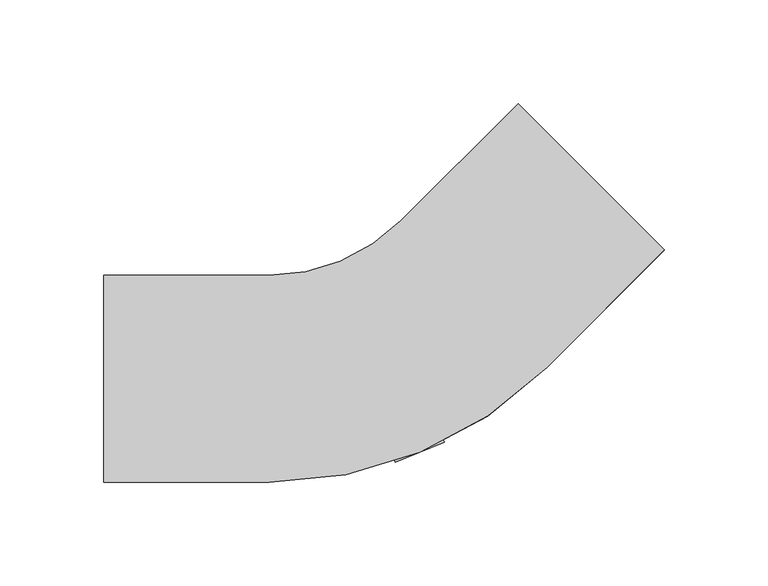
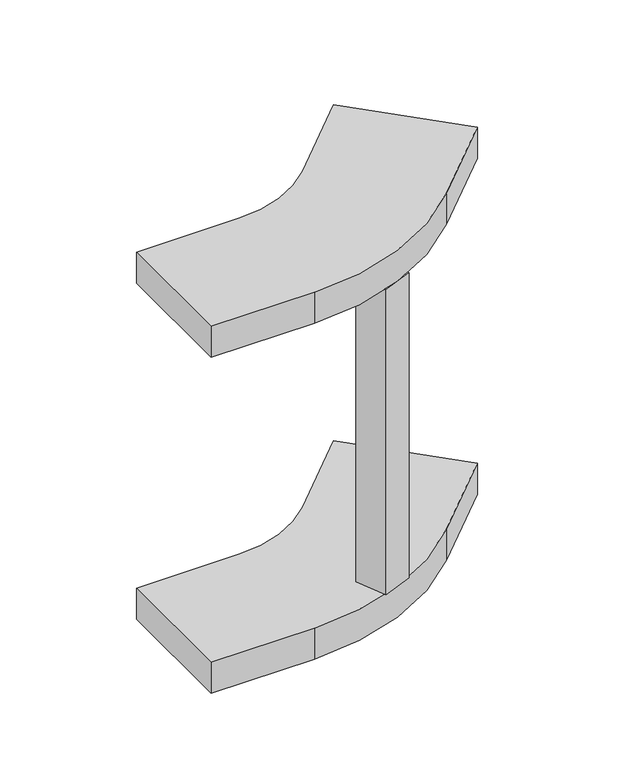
"""IFC4 building model written with IfcOpenShell, lengths in millimetres: cable carrier fitting geometry, Common_はしご垂直内側曲げ : 03 強電_低圧."""

from ifc_helpers import new_model, si_unit, point, frame, frame_2d, origin, place, context, project, spatial, polyline, circle_curve, trimmed, segment, composite_curve, outline, extrude, source, transform, mapped, element, save


def cable_carrier_fitting_edf0bd9d(model_context):
    return source(origin(), model_context, "Body", "SweptSolid", [
        extrude(outline(polyline([(16.7330643, -7.2104915), (26.4532235, -30.6770316), (2.9866834, -40.3971908), (-6.7334758, -16.9306506), (16.7330643, -7.2104915)])), frame((0.0, 0.0, -124.6), z_axis=(0.0, 0.0, 1.0), x_axis=(1.0, 0.0, 0.0)), (0.0, 0.0, 1.0), 249.2),
        extrude(outline(composite_curve([segment(polyline([(-137.9898987, -50.0), (-137.9898987, 50.0), (-57.9898987, 50.0)]), True, "CONTINUOUS"), segment(trimmed(circle_curve(frame_2d((-57.9898987, 140.0)), 90.0), [point((-57.9898987, 50.0))], [point((5.6497116, 76.3603897))], True, "CARTESIAN"), True, "CONTINUOUS"), segment(polyline([(5.6497116, 76.3603897), (62.2182541, 132.9289322), (132.9289322, 62.2182541), (76.3603897, 5.6497116)]), True, "CONTINUOUS"), segment(trimmed(circle_curve(frame_2d((-57.9898987, 140.0)), 190.0), [point((76.3603897, 5.6497116))], [point((-57.9898987, -50.0))], False, "CARTESIAN"), True, "CONTINUOUS"), segment(polyline([(-57.9898987, -50.0), (-137.9898987, -50.0)]), True, "CONTINUOUS")], self_intersect=False)), frame((0.0, 0.0, 124.6), z_axis=(0.0, 0.0, 1.0), x_axis=(1.0, 0.0, 0.0)), (0.0, 0.0, 1.0), 25.4),
        extrude(outline(composite_curve([segment(polyline([(-137.9898987, -50.0), (-137.9898987, 50.0), (-57.9898987, 50.0)]), True, "CONTINUOUS"), segment(trimmed(circle_curve(frame_2d((-57.9898987, 140.0)), 90.0), [point((-57.9898987, 50.0))], [point((5.6497116, 76.3603897))], True, "CARTESIAN"), True, "CONTINUOUS"), segment(polyline([(5.6497116, 76.3603897), (62.2182541, 132.9289322), (132.9289322, 62.2182541), (76.3603897, 5.6497116)]), True, "CONTINUOUS"), segment(trimmed(circle_curve(frame_2d((-57.9898987, 140.0)), 190.0), [point((76.3603897, 5.6497116))], [point((-57.9898987, -50.0))], False, "CARTESIAN"), True, "CONTINUOUS"), segment(polyline([(-57.9898987, -50.0), (-137.9898987, -50.0)]), True, "CONTINUOUS")], self_intersect=False)), frame((0.0, 0.0, -150.0), z_axis=(0.0, 0.0, 1.0), x_axis=(1.0, 0.0, 0.0)), (0.0, 0.0, 1.0), 25.4),
    ])


if __name__ == "__main__":
    model = new_model("IFC4")
    model_context = context("Model", 3, world=origin())
    ifc_project = project(units=[si_unit("LENGTHUNIT", "METRE", prefix="MILLI")], contexts=[model_context])
    site = spatial("IfcSite", under=ifc_project)
    building = spatial("IfcBuilding", under=site)
    placement = place(None, origin())
    cable_carrier_fitting_shape = cable_carrier_fitting_edf0bd9d(model_context)
    element("IfcCableCarrierFitting", 1, ObjectType="Common_はしご垂直内側曲げ : 03 強電_低圧", at=placement, inside=building, context=model_context, shape_type="MappedRepresentation", body=[
        mapped(cable_carrier_fitting_shape, transform((0.0, 0.0, 0.0), x_axis=(1.0, 0.0, 0.0), y_axis=(0.0, 1.0, 0.0), z_axis=(0.0, 0.0, 1.0))),
    ])
    save(model, "model.ifc")
